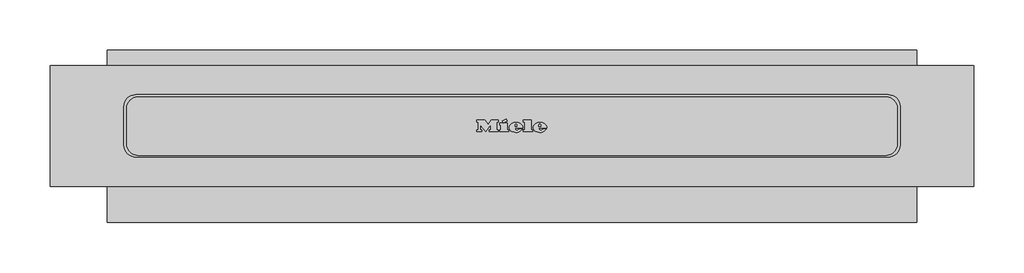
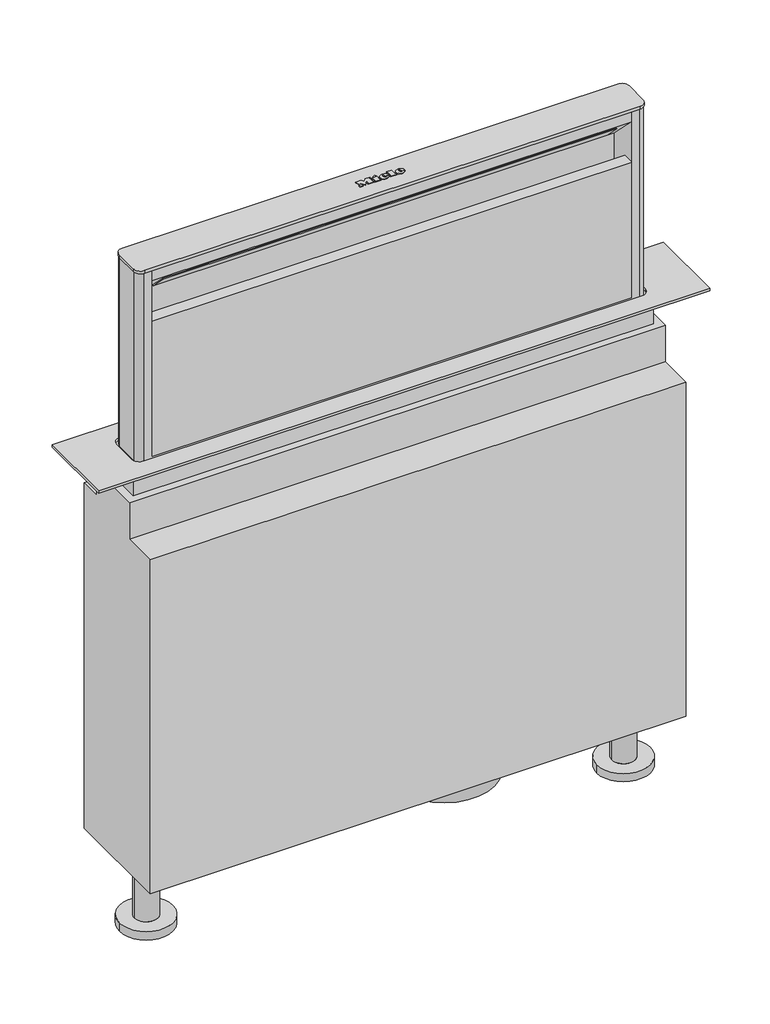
# Not in any storey: 1 proxy.
"""IFC4 building model written with IfcOpenShell, lengths in millimetres."""

from ifc_helpers import new_model, si_unit, origin, place, context, project, spatial, transform, mapped, element, save
from components import specialty_equipment_e5a26d60

model = new_model("IFC4")

# Units and contexts
model_context = context("Model", 3, world=origin())
ifc_project = project(units=[si_unit("LENGTHUNIT", "METRE", prefix="MILLI")], contexts=[model_context])

# Site, building
site = spatial("IfcSite", under=ifc_project)
building = spatial("IfcBuilding", under=site)

# Proxy
placement = place(None, origin())
specialty_equipment_shape = specialty_equipment_e5a26d60(model_context)
element("IfcBuildingElementProxy", 1, Name="12529780_KZ_DAD4841_MASW : 28D4841M_KZ_12529780_DAD4841_MASW", ObjectType="12529780_KZ_DAD4841_MASW : 28D4841M_KZ_12529780_DAD4841_MASW", at=placement, inside=building, context=model_context, shape_type="MappedRepresentation", body=[
    mapped(specialty_equipment_shape, transform((0.0, 0.0, 0.0), x_axis=(1.0, 0.0, 0.0), y_axis=(0.0, 1.0, 0.0), z_axis=(0.0, 0.0, 1.0))),
])

save(model, "model.ifc")
